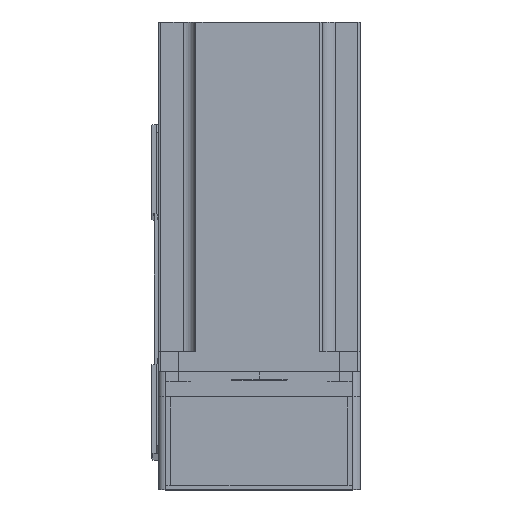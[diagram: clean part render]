
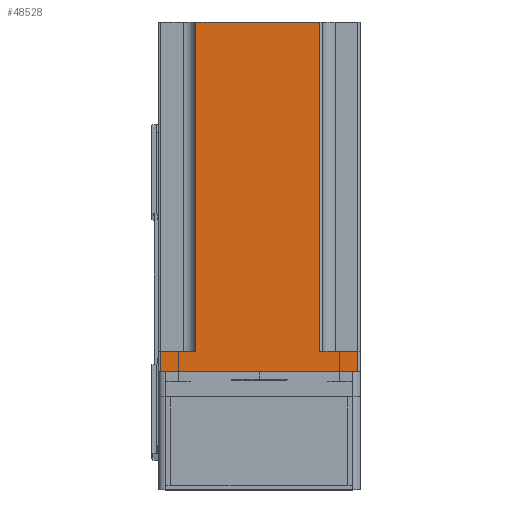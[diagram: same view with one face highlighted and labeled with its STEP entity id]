
A CAD part, top view. The second image highlights one B-rep face of the part: STEP entity #48528.
In plain terms, the highlighted planar face has unit normal (0, 0, 1) as drawn and (-1, 0, 0) by its records, which use the part's own axes.
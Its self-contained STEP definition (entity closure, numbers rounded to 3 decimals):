
#98 = VECTOR ( 'NONE', #43484, 1000. ) ;
#1131 = VERTEX_POINT ( 'NONE', #34158 ) ;
#1415 = LINE ( 'NONE', #21628, #98 ) ;
#1636 = CARTESIAN_POINT ( 'NONE',  ( -40., -40., 0. ) ) ;
#1809 = CARTESIAN_POINT ( 'NONE',  ( -40., -40., 138.3 ) ) ;
#1876 = LINE ( 'NONE', #45610, #11941 ) ;
#1945 = VERTEX_POINT ( 'NONE', #27748 ) ;
#2752 = DIRECTION ( 'NONE',  ( 0., 0., -1. ) ) ;
#3321 = EDGE_CURVE ( 'NONE', #4562, #1131, #46541, .T. ) ;
#3856 = ORIENTED_EDGE ( 'NONE', *, *, #3321, .F. ) ;
#4562 = VERTEX_POINT ( 'NONE', #32989 ) ;
#4613 = EDGE_CURVE ( 'NONE', #18669, #18713, #8621, .T. ) ;
#6074 = VECTOR ( 'NONE', #33260, 1000. ) ;
#6818 = CARTESIAN_POINT ( 'NONE',  ( -40., -40., 8. ) ) ;
#8110 = ORIENTED_EDGE ( 'NONE', *, *, #42072, .T. ) ;
#8621 = LINE ( 'NONE', #54914, #41638 ) ;
#11164 = VECTOR ( 'NONE', #27505, 1000. ) ;
#11941 = VECTOR ( 'NONE', #2752, 1000. ) ;
#12208 = VECTOR ( 'NONE', #36903, 1000. ) ;
#12851 = ORIENTED_EDGE ( 'NONE', *, *, #29983, .T. ) ;
#13064 = VERTEX_POINT ( 'NONE', #19061 ) ;
#14377 = ORIENTED_EDGE ( 'NONE', *, *, #34245, .T. ) ;
#14477 = EDGE_CURVE ( 'NONE', #16119, #28997, #1876, .T. ) ;
#15449 = CARTESIAN_POINT ( 'NONE',  ( -40., 25., 138.3 ) ) ;
#15816 = VECTOR ( 'NONE', #18702, 1000. ) ;
#16119 = VERTEX_POINT ( 'NONE', #40560 ) ;
#18669 = VERTEX_POINT ( 'NONE', #19567 ) ;
#18702 = DIRECTION ( 'NONE',  ( 0., -1., 0. ) ) ;
#18713 = VERTEX_POINT ( 'NONE', #15449 ) ;
#18781 = CARTESIAN_POINT ( 'NONE',  ( -40., -39., 138.3 ) ) ;
#19061 = CARTESIAN_POINT ( 'NONE',  ( -40., -24., 138.3 ) ) ;
#19567 = CARTESIAN_POINT ( 'NONE',  ( -40., 25., 8. ) ) ;
#19837 = ORIENTED_EDGE ( 'NONE', *, *, #4613, .F. ) ;
#21628 = CARTESIAN_POINT ( 'NONE',  ( -40., 40., 8. ) ) ;
#22781 = CARTESIAN_POINT ( 'NONE',  ( -40., 39., 0. ) ) ;
#22821 = ORIENTED_EDGE ( 'NONE', *, *, #29200, .F. ) ;
#22946 = AXIS2_PLACEMENT_3D ( 'NONE', #24773, #54777, #29063 ) ;
#23947 = VECTOR ( 'NONE', #44602, 1000. ) ;
#24773 = CARTESIAN_POINT ( 'NONE',  ( -40., -40., 138.3 ) ) ;
#27505 = DIRECTION ( 'NONE',  ( 0., -1., 0. ) ) ;
#27541 = ORIENTED_EDGE ( 'NONE', *, *, #38452, .T. ) ;
#27748 = CARTESIAN_POINT ( 'NONE',  ( -40., -39., 0. ) ) ;
#28916 = LINE ( 'NONE', #41981, #6074 ) ;
#28997 = VERTEX_POINT ( 'NONE', #22781 ) ;
#29063 = DIRECTION ( 'NONE',  ( 0., 0., -1. ) ) ;
#29200 = EDGE_CURVE ( 'NONE', #18713, #13064, #45522, .T. ) ;
#29202 = DIRECTION ( 'NONE',  ( 0., 0., 1. ) ) ;
#29983 = EDGE_CURVE ( 'NONE', #4562, #13064, #28916, .T. ) ;
#31915 = ORIENTED_EDGE ( 'NONE', *, *, #14477, .T. ) ;
#32989 = CARTESIAN_POINT ( 'NONE',  ( -40., -24., 8. ) ) ;
#33260 = DIRECTION ( 'NONE',  ( 0., 0., 1. ) ) ;
#34158 = CARTESIAN_POINT ( 'NONE',  ( -40., -39., 8. ) ) ;
#34245 = EDGE_CURVE ( 'NONE', #18669, #16119, #1415, .T. ) ;
#36903 = DIRECTION ( 'NONE',  ( 0., -1., 0. ) ) ;
#38452 = EDGE_CURVE ( 'NONE', #28997, #1945, #38705, .T. ) ;
#38705 = LINE ( 'NONE', #1636, #15816 ) ;
#40560 = CARTESIAN_POINT ( 'NONE',  ( -40., 39., 8. ) ) ;
#41638 = VECTOR ( 'NONE', #29202, 1000. ) ;
#41981 = CARTESIAN_POINT ( 'NONE',  ( -40., -24., 138.3 ) ) ;
#42072 = EDGE_CURVE ( 'NONE', #1945, #1131, #46856, .T. ) ;
#43484 = DIRECTION ( 'NONE',  ( 0., 1., 0. ) ) ;
#44602 = DIRECTION ( 'NONE',  ( 0., 0., 1. ) ) ;
#45522 = LINE ( 'NONE', #1809, #11164 ) ;
#45610 = CARTESIAN_POINT ( 'NONE',  ( -40., 39., 138.3 ) ) ;
#46541 = LINE ( 'NONE', #6818, #12208 ) ;
#46856 = LINE ( 'NONE', #18781, #23947 ) ;
#48528 = ADVANCED_FACE ( 'NONE', ( #52025 ), #54592, .F. ) ;
#51202 = EDGE_LOOP ( 'NONE', ( #3856, #12851, #22821, #19837, #14377, #31915, #27541, #8110 ) ) ;
#52025 = FACE_OUTER_BOUND ( 'NONE', #51202, .T. ) ;
#54592 = PLANE ( 'NONE',  #22946 ) ;
#54777 = DIRECTION ( 'NONE',  ( 1., 0., 0. ) ) ;
#54914 = CARTESIAN_POINT ( 'NONE',  ( -40., 25., 8. ) ) ;
